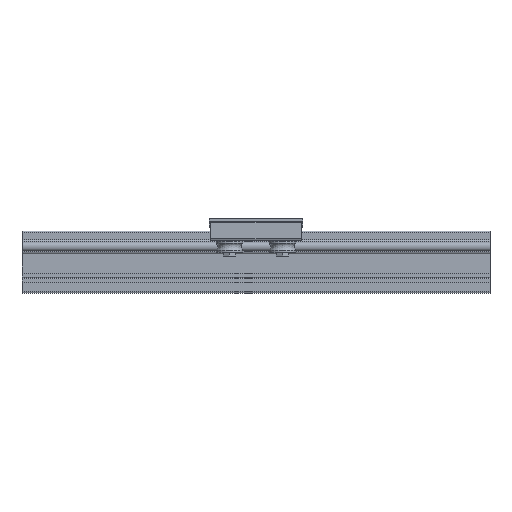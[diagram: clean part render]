
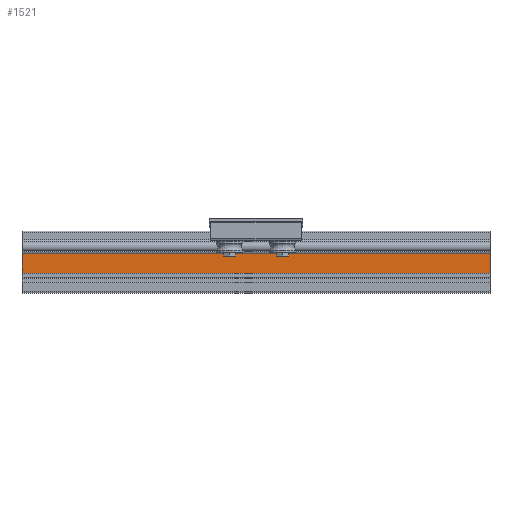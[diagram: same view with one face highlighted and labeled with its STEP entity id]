
A CAD part, front view. The second image highlights one B-rep face of the part: STEP entity #1521.
In plain terms, the highlighted planar face has unit normal (0, -1, 0).
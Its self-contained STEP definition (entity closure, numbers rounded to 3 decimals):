
#1465=CARTESIAN_POINT('',(300.0,-10.,-17.));
#1466=VERTEX_POINT('',#1465);
#1473=CARTESIAN_POINT('',(0.0,-10.,-17.));
#1474=VERTEX_POINT('',#1473);
#1475=CARTESIAN_POINT('',(0.0,-10.,-17.));
#1476=DIRECTION('',(1.0,0.0,0.0));
#1477=VECTOR('',#1476,300.0);
#1478=LINE('',#1475,#1477);
#1479=EDGE_CURVE('',#1474,#1466,#1478,.T.);
#1491=CARTESIAN_POINT('',(0.0,-10.,-17.));
#1492=DIRECTION('',(0.0,-1.0,0.0));
#1493=DIRECTION('',(0.0,0.0,-1.0));
#1494=AXIS2_PLACEMENT_3D('',#1491,#1492,#1493);
#1495=PLANE('',#1494);
#1496=CARTESIAN_POINT('',(300.0,-10.,-4.5));
#1497=VERTEX_POINT('',#1496);
#1498=CARTESIAN_POINT('',(300.0,-10.,-17.));
#1499=DIRECTION('',(0.0,0.0,1.0));
#1500=VECTOR('',#1499,12.5);
#1501=LINE('',#1498,#1500);
#1502=EDGE_CURVE('',#1466,#1497,#1501,.T.);
#1503=ORIENTED_EDGE('',*,*,#1502,.T.);
#1504=CARTESIAN_POINT('',(0.0,-10.,-4.5));
#1505=VERTEX_POINT('',#1504);
#1506=CARTESIAN_POINT('',(0.0,-10.,-4.5));
#1507=DIRECTION('',(1.0,0.0,0.0));
#1508=VECTOR('',#1507,300.0);
#1509=LINE('',#1506,#1508);
#1510=EDGE_CURVE('',#1505,#1497,#1509,.T.);
#1511=ORIENTED_EDGE('',*,*,#1510,.F.);
#1512=CARTESIAN_POINT('',(0.0,-10.,-4.5));
#1513=DIRECTION('',(0.0,0.0,-1.0));
#1514=VECTOR('',#1513,12.5);
#1515=LINE('',#1512,#1514);
#1516=EDGE_CURVE('',#1505,#1474,#1515,.T.);
#1517=ORIENTED_EDGE('',*,*,#1516,.T.);
#1518=ORIENTED_EDGE('',*,*,#1479,.T.);
#1519=EDGE_LOOP('',(#1503,#1511,#1517,#1518));
#1520=FACE_OUTER_BOUND('',#1519,.T.);
#1521=ADVANCED_FACE('',(#1520),#1495,.T.);
